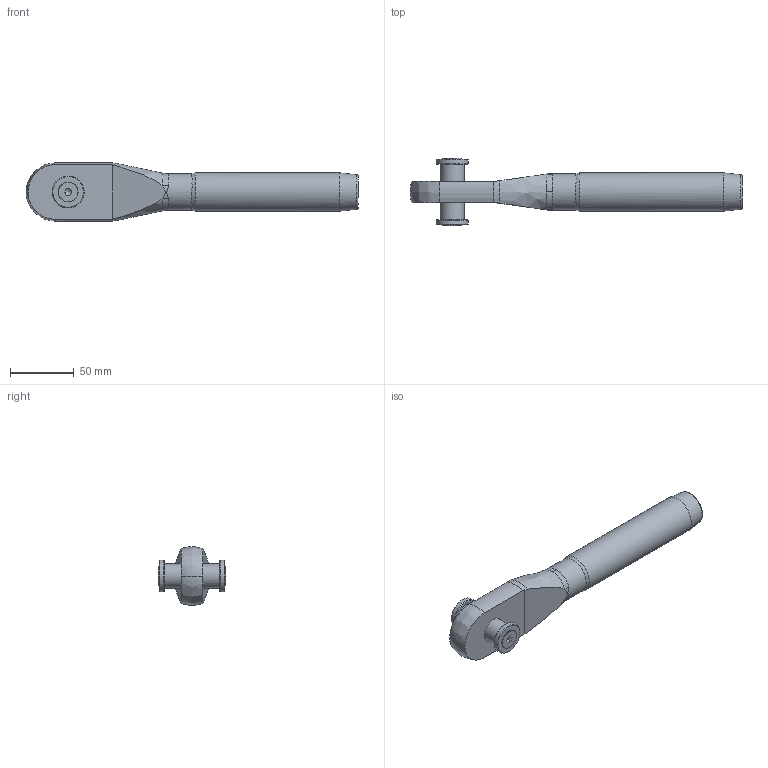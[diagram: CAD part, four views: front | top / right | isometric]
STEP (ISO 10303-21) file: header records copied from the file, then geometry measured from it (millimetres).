
FILE_DESCRIPTION(/* description */ (''),/* implementation_level */ '2;1');
FILE_NAME(/* name */ 'MCC 14_42CrMo4',/* time_stamp */ '2023-05-23T15:40:59+02:00',/* author */ (''),/* organization */ (''),/* preprocessor_version */ 'ST-DEVELOPER v16.5',/* originating_system */ 'Rhino 7.22',/* authorisation */ '');
FILE_SCHEMA (('CONFIG_CONTROL_DESIGN'));
Length unit declared in the file: millimetre
Products named in the file (1): Document
Bounding box: 260 x 52.72 x 45.95 mm (x, y, z)
Volume: 194558.9 mm3; surface area: 35365.1 mm2
Topology: 6 solids, 6 shells, 74 faces, 203 edges, 135 vertices
Faces by surface type: bspline 31, plane 27, cylinder 16
Full cylindrical faces by diameter (mm): 6.647 x2, 8 x2, 8.5 x2, 15.24 x2, 19 x1, 20 x1, 25 x2, 28.6 x1, 30 x1
Entity records: 3175 total; most frequent: CARTESIAN_POINT 1920, ORIENTED_EDGE 386, EDGE_CURVE 193, VERTEX_POINT 135, EDGE_LOOP 84, ADVANCED_FACE 74, FACE_OUTER_BOUND 74, B_SPLINE_CURVE_WITH_KNOTS 64
